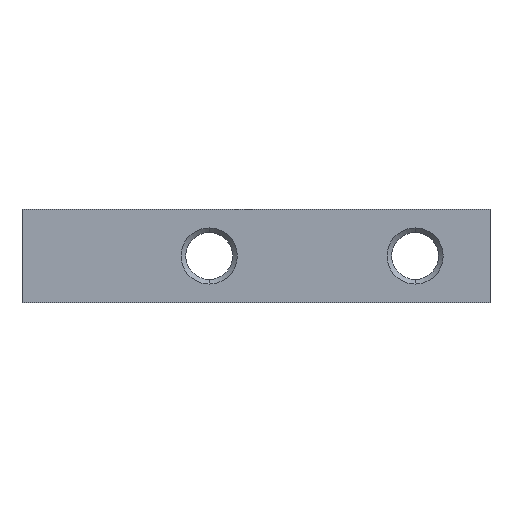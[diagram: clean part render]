
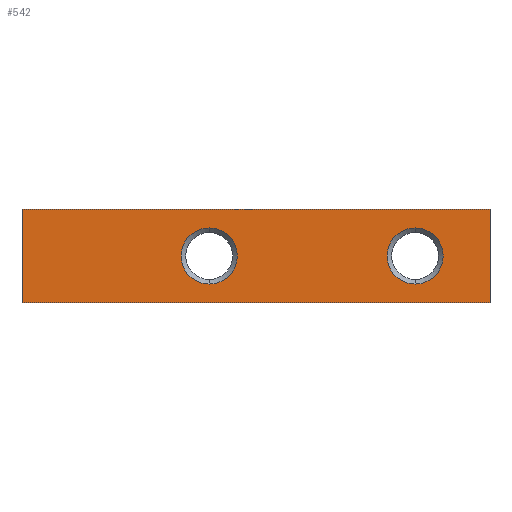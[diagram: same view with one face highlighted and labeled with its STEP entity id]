
A CAD part, front view. The second image highlights one B-rep face of the part: STEP entity #542.
In plain terms, the highlighted planar face has unit normal (0, -1, 0).
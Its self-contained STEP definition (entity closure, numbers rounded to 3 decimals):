
#14 = DIRECTION ( 'NONE',  ( 1., 0., 0. ) ) ;
#39 = DIRECTION ( 'NONE',  ( 1., 0., 0. ) ) ;
#102 = CARTESIAN_POINT ( 'NONE',  ( 0., -50., -10. ) ) ;
#232 = FACE_BOUND ( 'NONE', #1287, .T. ) ;
#252 = ORIENTED_EDGE ( 'NONE', *, *, #1302, .T. ) ;
#281 = CARTESIAN_POINT ( 'NONE',  ( -50., -50., 0. ) ) ;
#299 = CARTESIAN_POINT ( 'NONE',  ( -30., -50., -5. ) ) ;
#301 = VERTEX_POINT ( 'NONE', #973 ) ;
#337 = CARTESIAN_POINT ( 'NONE',  ( -8., -50., -5. ) ) ;
#375 = CIRCLE ( 'NONE', #3543, 3. ) ;
#380 = LINE ( 'NONE', #102, #862 ) ;
#395 = CARTESIAN_POINT ( 'NONE',  ( -30., -50., -5. ) ) ;
#423 = VERTEX_POINT ( 'NONE', #434 ) ;
#434 = CARTESIAN_POINT ( 'NONE',  ( -8., -50., -2. ) ) ;
#542 = ADVANCED_FACE ( 'NONE', ( #232, #1135, #1095 ), #2237, .T. ) ;
#595 = EDGE_CURVE ( 'NONE', #1559, #301, #1377, .T. ) ;
#628 = DIRECTION ( 'NONE',  ( 0., 0., 1. ) ) ;
#660 = DIRECTION ( 'NONE',  ( 0., 1., 0. ) ) ;
#733 = DIRECTION ( 'NONE',  ( 1., 0., 0. ) ) ;
#813 = VERTEX_POINT ( 'NONE', #2730 ) ;
#862 = VECTOR ( 'NONE', #733, 1000. ) ;
#872 = VERTEX_POINT ( 'NONE', #3635 ) ;
#949 = AXIS2_PLACEMENT_3D ( 'NONE', #299, #1707, #39 ) ;
#973 = CARTESIAN_POINT ( 'NONE',  ( 0., -50., 0. ) ) ;
#1000 = CIRCLE ( 'NONE', #1491, 3. ) ;
#1079 = EDGE_CURVE ( 'NONE', #2541, #423, #375, .T. ) ;
#1095 = FACE_OUTER_BOUND ( 'NONE', #3300, .T. ) ;
#1133 = ORIENTED_EDGE ( 'NONE', *, *, #1765, .T. ) ;
#1135 = FACE_BOUND ( 'NONE', #2434, .T. ) ;
#1171 = DIRECTION ( 'NONE',  ( 0., 1., 0. ) ) ;
#1207 = ORIENTED_EDGE ( 'NONE', *, *, #1079, .T. ) ;
#1211 = VECTOR ( 'NONE', #628, 1000. ) ;
#1287 = EDGE_LOOP ( 'NONE', ( #1207, #2168 ) ) ;
#1297 = VERTEX_POINT ( 'NONE', #1724 ) ;
#1302 = EDGE_CURVE ( 'NONE', #2582, #872, #1790, .T. ) ;
#1313 = ORIENTED_EDGE ( 'NONE', *, *, #3363, .T. ) ;
#1377 = LINE ( 'NONE', #2817, #2576 ) ;
#1434 = CARTESIAN_POINT ( 'NONE',  ( 0., -50., -10. ) ) ;
#1491 = AXIS2_PLACEMENT_3D ( 'NONE', #395, #1581, #1541 ) ;
#1541 = DIRECTION ( 'NONE',  ( 1., 0., 0. ) ) ;
#1559 = VERTEX_POINT ( 'NONE', #281 ) ;
#1575 = CARTESIAN_POINT ( 'NONE',  ( -30., -50., -8. ) ) ;
#1581 = DIRECTION ( 'NONE',  ( 0., 1., 0. ) ) ;
#1707 = DIRECTION ( 'NONE',  ( 0., 1., 0. ) ) ;
#1724 = CARTESIAN_POINT ( 'NONE',  ( 0., -50., -10. ) ) ;
#1765 = EDGE_CURVE ( 'NONE', #813, #1297, #380, .T. ) ;
#1781 = EDGE_CURVE ( 'NONE', #813, #1559, #3564, .T. ) ;
#1790 = CIRCLE ( 'NONE', #949, 3. ) ;
#1918 = CIRCLE ( 'NONE', #2226, 3. ) ;
#1999 = VECTOR ( 'NONE', #2467, 1000. ) ;
#2168 = ORIENTED_EDGE ( 'NONE', *, *, #2365, .T. ) ;
#2226 = AXIS2_PLACEMENT_3D ( 'NONE', #337, #1171, #3151 ) ;
#2237 = PLANE ( 'NONE',  #2329 ) ;
#2329 = AXIS2_PLACEMENT_3D ( 'NONE', #1434, #3417, #14 ) ;
#2341 = EDGE_CURVE ( 'NONE', #1297, #301, #3482, .T. ) ;
#2365 = EDGE_CURVE ( 'NONE', #423, #2541, #1918, .T. ) ;
#2434 = EDGE_LOOP ( 'NONE', ( #252, #1313 ) ) ;
#2467 = DIRECTION ( 'NONE',  ( 0., 0., 1. ) ) ;
#2495 = ORIENTED_EDGE ( 'NONE', *, *, #1781, .F. ) ;
#2541 = VERTEX_POINT ( 'NONE', #3554 ) ;
#2576 = VECTOR ( 'NONE', #3093, 1000. ) ;
#2582 = VERTEX_POINT ( 'NONE', #1575 ) ;
#2640 = CARTESIAN_POINT ( 'NONE',  ( -8., -50., -5. ) ) ;
#2730 = CARTESIAN_POINT ( 'NONE',  ( -50., -50., -10. ) ) ;
#2739 = CARTESIAN_POINT ( 'NONE',  ( -50., -50., -10. ) ) ;
#2765 = ORIENTED_EDGE ( 'NONE', *, *, #2341, .T. ) ;
#2817 = CARTESIAN_POINT ( 'NONE',  ( 0., -50., 0. ) ) ;
#2913 = ORIENTED_EDGE ( 'NONE', *, *, #595, .F. ) ;
#3093 = DIRECTION ( 'NONE',  ( 1., 0., 0. ) ) ;
#3151 = DIRECTION ( 'NONE',  ( 1., 0., 0. ) ) ;
#3203 = DIRECTION ( 'NONE',  ( 1., 0., 0. ) ) ;
#3300 = EDGE_LOOP ( 'NONE', ( #2913, #2495, #1133, #2765 ) ) ;
#3363 = EDGE_CURVE ( 'NONE', #872, #2582, #1000, .T. ) ;
#3417 = DIRECTION ( 'NONE',  ( 0., -1., 0. ) ) ;
#3482 = LINE ( 'NONE', #3497, #1211 ) ;
#3497 = CARTESIAN_POINT ( 'NONE',  ( 0., -50., -10. ) ) ;
#3543 = AXIS2_PLACEMENT_3D ( 'NONE', #2640, #660, #3203 ) ;
#3554 = CARTESIAN_POINT ( 'NONE',  ( -8., -50., -8. ) ) ;
#3564 = LINE ( 'NONE', #2739, #1999 ) ;
#3635 = CARTESIAN_POINT ( 'NONE',  ( -30., -50., -2. ) ) ;
